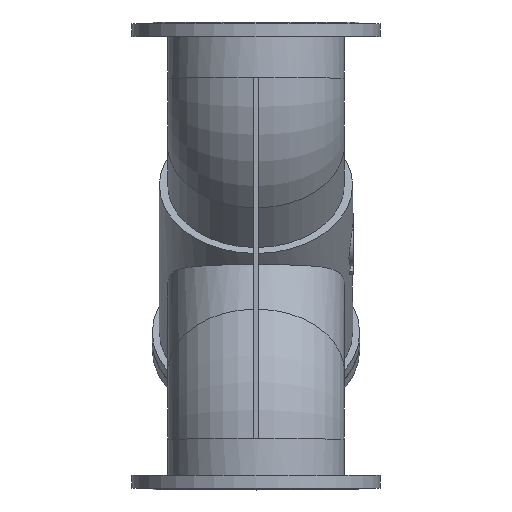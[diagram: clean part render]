
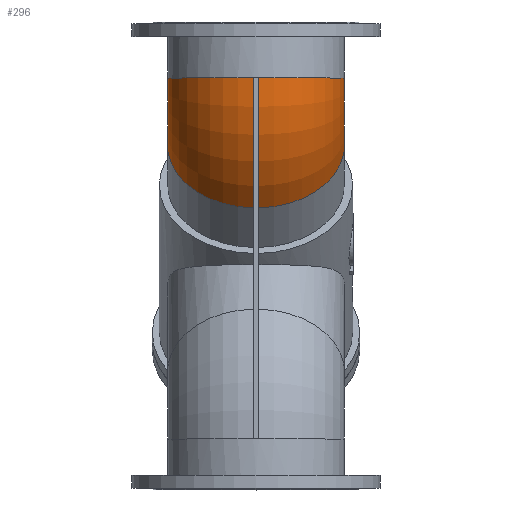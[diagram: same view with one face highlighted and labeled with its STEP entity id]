
A CAD part, top view. The second image highlights one B-rep face of the part: STEP entity #296.
In plain terms, the highlighted toroidal (fillet/blend) face has major radius 200 mm and minor radius 185 mm.
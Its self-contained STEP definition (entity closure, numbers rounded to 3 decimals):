
#296=ADVANCED_FACE('',(#1156),#1158,.T.);
#1156=FACE_BOUND('',#1157,.T.);
#1157=EDGE_LOOP('',(#2052,#2053,#2054,#2055));
#1158=TOROIDAL_SURFACE('',#1159,200.,185.);
#1159=AXIS2_PLACEMENT_3D('',#1160,#1161,#1162);
#1160=CARTESIAN_POINT('',(0.,372.843,-200.));
#1161=DIRECTION('',(1.,0.,0.));
#1162=DIRECTION('',(0.,0.,1.));
#2052=ORIENTED_EDGE('',*,*,#2346,.F.);
#2053=ORIENTED_EDGE('',*,*,#2369,.T.);
#2054=ORIENTED_EDGE('',*,*,#2355,.F.);
#2055=ORIENTED_EDGE('',*,*,#2370,.F.);
#2346=EDGE_CURVE('',#2572,#2574,#2575,.T.);
#2355=EDGE_CURVE('',#2588,#2590,#2591,.F.);
#2369=EDGE_CURVE('',#2572,#2590,#2611,.T.);
#2370=EDGE_CURVE('',#2574,#2588,#2612,.T.);
#2572=VERTEX_POINT('',#3882);
#2574=VERTEX_POINT('',#3886);
#2575=CIRCLE('',#3887,384.903);
#2588=VERTEX_POINT('',#3920);
#2590=VERTEX_POINT('',#3924);
#2591=CIRCLE('',#3925,384.903);
#2611=CIRCLE('',#3980,185.);
#2612=CIRCLE('',#3984,185.);
#3882=CARTESIAN_POINT('',(-6.,372.843,184.903));
#3886=CARTESIAN_POINT('',(-6.,100.675,72.167));
#3887=AXIS2_PLACEMENT_3D('',#3888,#3889,#3890);
#3888=CARTESIAN_POINT('',(-6.,372.843,-200.));
#3889=DIRECTION('',(1.,0.,0.));
#3890=DIRECTION('',(0.,0.,1.));
#3920=CARTESIAN_POINT('',(6.,100.675,72.167));
#3924=CARTESIAN_POINT('',(6.,372.843,184.903));
#3925=AXIS2_PLACEMENT_3D('',#3926,#3927,#3928);
#3926=CARTESIAN_POINT('',(6.,372.843,-200.));
#3927=DIRECTION('',(1.,0.,0.));
#3928=DIRECTION('',(0.,0.,1.));
#3980=AXIS2_PLACEMENT_3D('',#3981,#3982,#3983);
#3981=CARTESIAN_POINT('',(0.,372.843,0.));
#3982=DIRECTION('',(0.,-1.,0.));
#3983=DIRECTION('',(-0.032,0.,0.999));
#3984=AXIS2_PLACEMENT_3D('',#3985,#3986,#3987);
#3985=CARTESIAN_POINT('',(0.,231.421,-58.579));
#3986=DIRECTION('',(0.,-0.707,-0.707));
#3987=DIRECTION('',(-0.032,-0.707,0.707));
